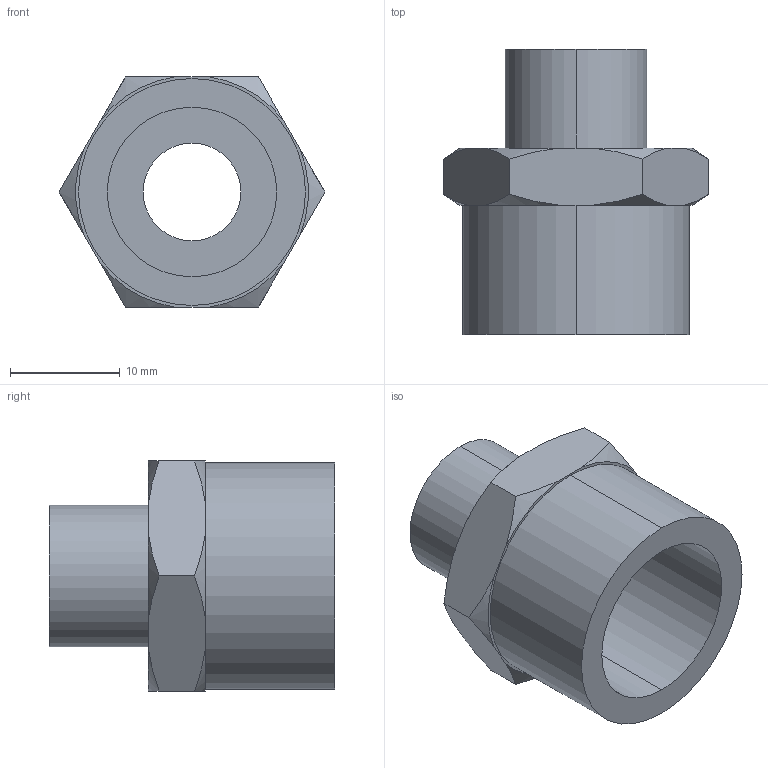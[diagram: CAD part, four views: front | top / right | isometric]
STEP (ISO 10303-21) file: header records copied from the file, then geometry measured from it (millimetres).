
FILE_DESCRIPTION (( 'STEP AP203' ), '1' );
FILE_NAME ('TTY-YG04-02P.STEP', '2024-01-19T03:11:09', ( 'E.mc' ), ( 'E.mc' ), 'SwSTEP 2.0', 'SolidWorks 2017', '' );
FILE_SCHEMA (( 'CONFIG_CONTROL_DESIGN' ));
Length unit declared in the file: millimetre
Products named in the file (1): TTY-YG04-02P
Bounding box: 24.18 x 25.96 x 20.94 mm (x, y, z)
Volume: 3585 mm3; surface area: 3141.8 mm2
Topology: 1 solids, 1 shells, 31 faces, 78 edges, 52 vertices
Faces by surface type: cone 12, plane 11, cylinder 8
Entity records: 1077 total; most frequent: CARTESIAN_POINT 266, ORIENTED_EDGE 156, DIRECTION 146, EDGE_CURVE 78, AXIS2_PLACEMENT_3D 60, VERTEX_POINT 52, EDGE_LOOP 36, FACE_OUTER_BOUND 31
